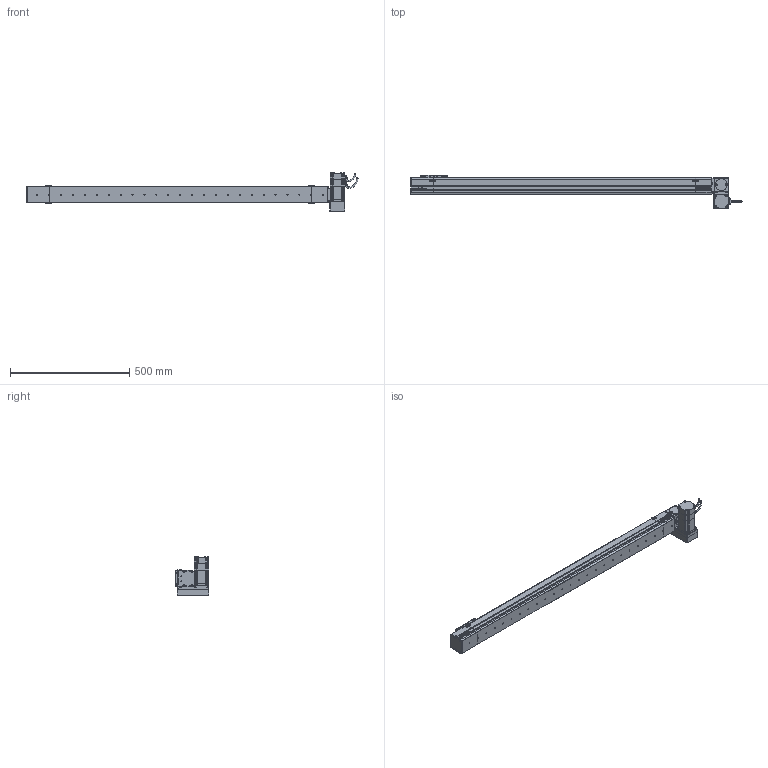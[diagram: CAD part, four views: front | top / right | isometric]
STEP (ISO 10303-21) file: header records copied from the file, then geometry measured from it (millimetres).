
FILE_DESCRIPTION (( 'STEP AP214' ), '1' );
FILE_NAME ('S07 CBN RU S1100.STEP', '2010-06-29T10:18:22', ( 'Conseil Régional Haute-Normandie' ), ( 'Conseil Régional Haute-Normandie' ), 'SwSTEP 2.0', 'SolidWorks 2010', '' );
FILE_SCHEMA (( 'AUTOMOTIVE_DESIGN' ));
Length unit declared in the file: millimetre
Products named in the file (31): Corp RU_Default; Plaque de bout Tail_Default; S07 CBN RU S1100; Couvercle Tail_Default; Head RU_Default; plaque de serrage Tail_Default; Couvercle RU_Default; Corp Tail_Default; Tail S07 Tail_Default; plaque de serrage RU_Default; Plaque de bout RU_Default; Couvercle S07 S1100_Default; Corp S07 S1100_Default; Rondelle de Serrage RU_Default; VisM3_Default; Support Moteur RU_Default; Axe 60BLDC_Default; 60BLDC90A-640_Default; Cache Support Moteur RU_Default; Conecteur2 60BLDC_Default; Conecteur 60BLDC_Default; P1_Default; P3 90A_Default; P2 90A_Default; P4_Default; chariot_Default; Chariot S07_Default; vis M5 L15_Default; vis M5 L8_Default; support chariot_Default
Assembly tree (71 placements, depth 4):
  S07 CBN RU S1100
    Corp S07 S1100_Default
      Couvercle S07 S1100_Default
      Corp S07 S1100_Default
    Head RU_Default
      Couvercle RU_Default
      vis M5 L15_Default  x16
      Rondelle de Serrage RU_Default  x3
      60BLDC90A-640_Default
        VisM3_Default  x12
        P4_Default
        P3 90A_Default
        P2 90A_Default
        P1_Default
        Conecteur 60BLDC_Default
        Conecteur2 60BLDC_Default
        Axe 60BLDC_Default
      plaque de serrage RU_Default
      Plaque de bout RU_Default
      Corp RU_Default
      Cache Support Moteur RU_Default
      Support Moteur RU_Default
    Chariot S07_Default
      chariot_Default
      vis M5 L8_Default  x8
      support chariot_Default
    Tail S07 Tail_Default
      vis M5 L15_Default  x6
      Couvercle Tail_Default
      plaque de serrage Tail_Default
      Plaque de bout Tail_Default
      Corp Tail_Default
Bounding box: 1393.2 x 142 x 162 mm (x, y, z)
Volume: 6578687.1 mm3; surface area: 803474.1 mm2
Topology: 108 solids, 108 shells, 3916 faces, 9638 edges, 6204 vertices
Faces by surface type: plane 2258, bspline 756, cylinder 691, torus 112, cone 95, sphere 4
Entity records: 153993 total; most frequent: CARTESIAN_POINT 79695, ORIENTED_EDGE 14796, DIRECTION 11091, EDGE_CURVE 7398, VERTEX_POINT 4889, LINE 4789, VECTOR 4789, EDGE_LOOP 3181
